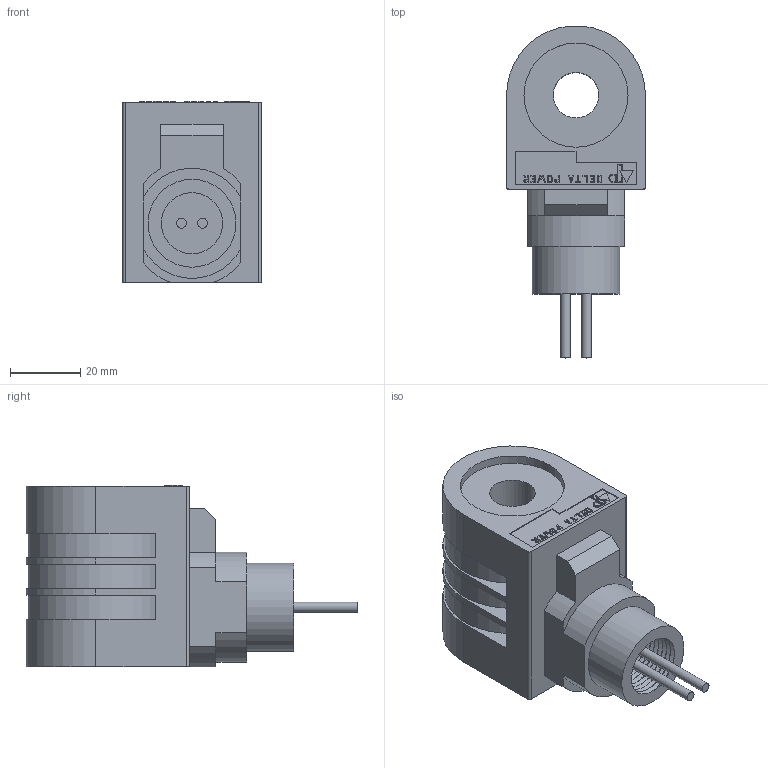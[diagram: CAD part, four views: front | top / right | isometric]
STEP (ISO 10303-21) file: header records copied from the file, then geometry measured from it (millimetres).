
FILE_DESCRIPTION((''),'2;1');
FILE_NAME('Q:\Delta CADD Insertion Codes\3D Solid models\Coils\STEP\DCL.stp','2012-11-08T08:32:45',('Dan'),(''),'Autodesk Inventor 2012','Autodesk Inventor 2012','');
FILE_SCHEMA(('AUTOMOTIVE_DESIGN { 1 0 10303 214 1 1 1 1 }'));
Length unit declared in the file: inch
Products named in the file (1): Part2
Bounding box: 39.62 x 94.7 x 51.82 mm (x, y, z)
Volume: 91521.2 mm3; surface area: 19750.2 mm2
Topology: 13 solids, 13 shells, 237 faces, 597 edges, 393 vertices
Faces by surface type: plane 181, cylinder 39, cone 17
Full cylindrical faces by diameter (mm): 2.794 x2, 13.005 x1, 25.095 x1, 29.694 x2
Entity records: 6987 total; most frequent: CARTESIAN_POINT 1203, ORIENTED_EDGE 1146, DIRECTION 1145, EDGE_CURVE 573, VECTOR 477, LINE 477, VERTEX_POINT 392, AXIS2_PLACEMENT_3D 334
